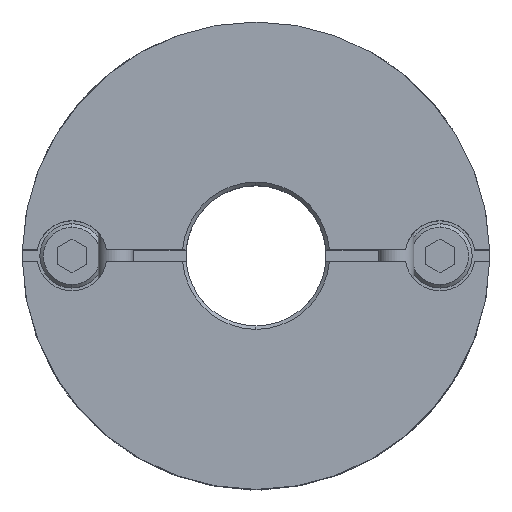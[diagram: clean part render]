
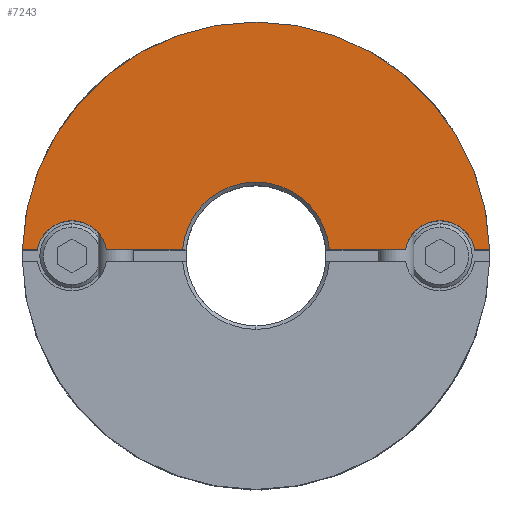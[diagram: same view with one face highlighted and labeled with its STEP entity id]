
A CAD part, top view. The second image highlights one B-rep face of the part: STEP entity #7243.
In plain terms, the highlighted planar face has unit normal (0, 0, 1).
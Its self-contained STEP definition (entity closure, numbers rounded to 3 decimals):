
#605=CARTESIAN_POINT('',(0.,20.0,15.6));
#606=VERTEX_POINT('',#605);
#690=CARTESIAN_POINT('',(-19.994,0.5,15.6));
#691=VERTEX_POINT('',#690);
#698=CARTESIAN_POINT('',(0.,0.0,15.6));
#699=DIRECTION('',(0.0,0.0,-1.0));
#700=DIRECTION('',(0.0,1.0,0.0));
#701=AXIS2_PLACEMENT_3D('',#698,#699,#700);
#702=CIRCLE('',#701,20.0);
#703=EDGE_CURVE('',#691,#606,#702,.T.);
#993=CARTESIAN_POINT('',(0.,6.3,15.6));
#994=VERTEX_POINT('',#993);
#1001=CARTESIAN_POINT('',(-6.28,0.5,15.6));
#1002=VERTEX_POINT('',#1001);
#1003=CARTESIAN_POINT('',(0.,0.,15.6));
#1004=DIRECTION('',(0.0,0.0,1.0));
#1005=DIRECTION('',(0.0,-1.0,0.0));
#1006=AXIS2_PLACEMENT_3D('',#1003,#1004,#1005);
#1007=CIRCLE('',#1006,6.3);
#1008=EDGE_CURVE('',#994,#1002,#1007,.T.);
#1309=CARTESIAN_POINT('',(-15.75,3.,15.6));
#1310=VERTEX_POINT('',#1309);
#1319=CARTESIAN_POINT('',(-18.708,0.5,15.6));
#1320=VERTEX_POINT('',#1319);
#1321=CARTESIAN_POINT('',(-15.75,0.,15.6));
#1322=DIRECTION('',(0.0,0.0,-1.0));
#1323=DIRECTION('',(0.0,1.0,0.0));
#1324=AXIS2_PLACEMENT_3D('',#1321,#1322,#1323);
#1325=CIRCLE('',#1324,3.0);
#1326=EDGE_CURVE('',#1320,#1310,#1325,.T.);
#1579=CARTESIAN_POINT('',(15.75,3.,15.6));
#1580=VERTEX_POINT('',#1579);
#1589=CARTESIAN_POINT('',(12.792,0.5,15.6));
#1590=VERTEX_POINT('',#1589);
#1591=CARTESIAN_POINT('',(15.75,0.,15.6));
#1592=DIRECTION('',(0.0,0.0,-1.0));
#1593=DIRECTION('',(0.0,1.0,0.0));
#1594=AXIS2_PLACEMENT_3D('',#1591,#1592,#1593);
#1595=CIRCLE('',#1594,3.0);
#1596=EDGE_CURVE('',#1590,#1580,#1595,.T.);
#5954=CARTESIAN_POINT('',(18.708,0.5,15.6));
#5955=VERTEX_POINT('',#5954);
#5962=CARTESIAN_POINT('',(15.75,0.,15.6));
#5963=DIRECTION('',(0.0,0.0,-1.0));
#5964=DIRECTION('',(0.0,1.0,0.0));
#5965=AXIS2_PLACEMENT_3D('',#5962,#5963,#5964);
#5966=CIRCLE('',#5965,3.0);
#5967=EDGE_CURVE('',#1580,#5955,#5966,.T.);
#6406=CARTESIAN_POINT('',(-12.792,0.5,15.6));
#6407=VERTEX_POINT('',#6406);
#6414=CARTESIAN_POINT('',(-15.75,0.,15.6));
#6415=DIRECTION('',(0.0,0.0,-1.0));
#6416=DIRECTION('',(0.0,1.0,0.0));
#6417=AXIS2_PLACEMENT_3D('',#6414,#6415,#6416);
#6418=CIRCLE('',#6417,3.0);
#6419=EDGE_CURVE('',#1310,#6407,#6418,.T.);
#6512=CARTESIAN_POINT('',(-12.792,0.5,15.6));
#6513=DIRECTION('',(1.0,0.0,0.0));
#6514=VECTOR('',#6513,6.512);
#6515=LINE('',#6512,#6514);
#6516=EDGE_CURVE('',#6407,#1002,#6515,.T.);
#6579=CARTESIAN_POINT('',(6.28,0.5,15.6));
#6580=VERTEX_POINT('',#6579);
#6581=CARTESIAN_POINT('',(6.28,0.5,15.6));
#6582=DIRECTION('',(1.0,0.0,0.0));
#6583=VECTOR('',#6582,6.512);
#6584=LINE('',#6581,#6583);
#6585=EDGE_CURVE('',#6580,#1590,#6584,.T.);
#7146=CARTESIAN_POINT('',(-19.994,0.5,15.6));
#7147=DIRECTION('',(1.0,0.0,0.0));
#7148=VECTOR('',#7147,1.286);
#7149=LINE('',#7146,#7148);
#7150=EDGE_CURVE('',#691,#1320,#7149,.T.);
#7205=CARTESIAN_POINT('',(0.,1.818,15.6));
#7206=DIRECTION('',(0.0,0.0,1.0));
#7207=DIRECTION('',(0.0,1.0,0.0));
#7208=AXIS2_PLACEMENT_3D('',#7205,#7206,#7207);
#7209=PLANE('',#7208);
#7210=ORIENTED_EDGE('',*,*,#1326,.T.);
#7211=ORIENTED_EDGE('',*,*,#6419,.T.);
#7212=ORIENTED_EDGE('',*,*,#6516,.T.);
#7213=ORIENTED_EDGE('',*,*,#1008,.F.);
#7214=CARTESIAN_POINT('',(0.,0.,15.6));
#7215=DIRECTION('',(0.0,0.0,1.0));
#7216=DIRECTION('',(0.0,-1.0,0.0));
#7217=AXIS2_PLACEMENT_3D('',#7214,#7215,#7216);
#7218=CIRCLE('',#7217,6.3);
#7219=EDGE_CURVE('',#6580,#994,#7218,.T.);
#7220=ORIENTED_EDGE('',*,*,#7219,.F.);
#7221=ORIENTED_EDGE('',*,*,#6585,.T.);
#7222=ORIENTED_EDGE('',*,*,#1596,.T.);
#7223=ORIENTED_EDGE('',*,*,#5967,.T.);
#7224=CARTESIAN_POINT('',(19.994,0.5,15.6));
#7225=VERTEX_POINT('',#7224);
#7226=CARTESIAN_POINT('',(18.708,0.5,15.6));
#7227=DIRECTION('',(1.0,0.0,0.0));
#7228=VECTOR('',#7227,1.286);
#7229=LINE('',#7226,#7228);
#7230=EDGE_CURVE('',#5955,#7225,#7229,.T.);
#7231=ORIENTED_EDGE('',*,*,#7230,.T.);
#7232=CARTESIAN_POINT('',(0.,0.0,15.6));
#7233=DIRECTION('',(0.0,0.0,-1.0));
#7234=DIRECTION('',(0.0,1.0,0.0));
#7235=AXIS2_PLACEMENT_3D('',#7232,#7233,#7234);
#7236=CIRCLE('',#7235,20.0);
#7237=EDGE_CURVE('',#606,#7225,#7236,.T.);
#7238=ORIENTED_EDGE('',*,*,#7237,.F.);
#7239=ORIENTED_EDGE('',*,*,#703,.F.);
#7240=ORIENTED_EDGE('',*,*,#7150,.T.);
#7241=EDGE_LOOP('',(#7210,#7211,#7212,#7213,#7220,#7221,#7222,#7223,#7231,#7238,#7239,#7240));
#7242=FACE_OUTER_BOUND('',#7241,.T.);
#7243=ADVANCED_FACE('',(#7242),#7209,.T.);
